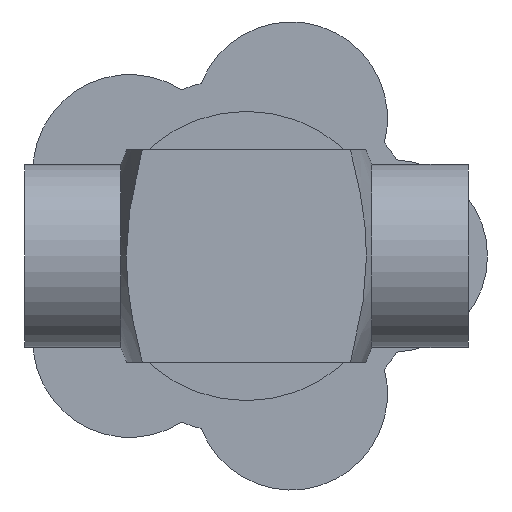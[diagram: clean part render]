
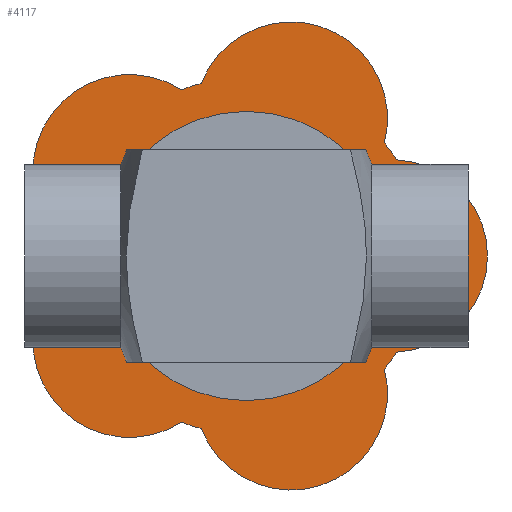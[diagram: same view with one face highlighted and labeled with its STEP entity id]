
A CAD part, front view. The second image highlights one B-rep face of the part: STEP entity #4117.
In plain terms, the highlighted planar face has unit normal (0, -1, 0).
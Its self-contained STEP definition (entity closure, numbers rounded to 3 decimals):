
#136=CIRCLE('',#4336,10.);
#138=CIRCLE('',#4339,10.);
#140=CIRCLE('',#4342,10.);
#142=CIRCLE('',#4345,10.);
#145=CIRCLE('',#4349,18.5);
#147=CIRCLE('',#4352,18.5);
#149=CIRCLE('',#4355,18.5);
#150=CIRCLE('',#4357,18.5);
#153=CIRCLE('',#4361,18.5);
#154=CIRCLE('',#4363,10.);
#162=CIRCLE('',#4374,15.);
#163=CIRCLE('',#4375,15.);
#239=FACE_BOUND('',#656,.T.);
#424=FACE_OUTER_BOUND('',#655,.T.);
#655=EDGE_LOOP('',(#3377,#3378,#3379,#3380,#3381,#3382,#3383,#3384,#3385,
#3386));
#656=EDGE_LOOP('',(#3387,#3388));
#1820=VERTEX_POINT('',#6720);
#1821=VERTEX_POINT('',#6721);
#1824=VERTEX_POINT('',#6729);
#1825=VERTEX_POINT('',#6730);
#1828=VERTEX_POINT('',#6738);
#1829=VERTEX_POINT('',#6739);
#1832=VERTEX_POINT('',#6747);
#1833=VERTEX_POINT('',#6748);
#1837=VERTEX_POINT('',#6758);
#1838=VERTEX_POINT('',#6768);
#1846=VERTEX_POINT('',#6795);
#1847=VERTEX_POINT('',#6796);
#2340=EDGE_CURVE('',#1820,#1821,#136,.T.);
#2344=EDGE_CURVE('',#1824,#1825,#138,.T.);
#2348=EDGE_CURVE('',#1828,#1829,#140,.T.);
#2352=EDGE_CURVE('',#1832,#1833,#142,.T.);
#2358=EDGE_CURVE('',#1837,#1832,#145,.T.);
#2360=EDGE_CURVE('',#1833,#1828,#147,.T.);
#2362=EDGE_CURVE('',#1829,#1824,#149,.T.);
#2363=EDGE_CURVE('',#1821,#1838,#150,.T.);
#2367=EDGE_CURVE('',#1825,#1820,#153,.T.);
#2368=EDGE_CURVE('',#1838,#1837,#154,.T.);
#2377=EDGE_CURVE('',#1846,#1847,#162,.T.);
#2378=EDGE_CURVE('',#1847,#1846,#163,.T.);
#3377=ORIENTED_EDGE('',*,*,#2358,.F.);
#3378=ORIENTED_EDGE('',*,*,#2368,.F.);
#3379=ORIENTED_EDGE('',*,*,#2363,.F.);
#3380=ORIENTED_EDGE('',*,*,#2340,.F.);
#3381=ORIENTED_EDGE('',*,*,#2367,.F.);
#3382=ORIENTED_EDGE('',*,*,#2344,.F.);
#3383=ORIENTED_EDGE('',*,*,#2362,.F.);
#3384=ORIENTED_EDGE('',*,*,#2348,.F.);
#3385=ORIENTED_EDGE('',*,*,#2360,.F.);
#3386=ORIENTED_EDGE('',*,*,#2352,.F.);
#3387=ORIENTED_EDGE('',*,*,#2377,.T.);
#3388=ORIENTED_EDGE('',*,*,#2378,.T.);
#3702=PLANE('',#4376);
#4117=ADVANCED_FACE('',(#424,#239),#3702,.T.);
#4336=AXIS2_PLACEMENT_3D('',#6722,#5120,#5121);
#4339=AXIS2_PLACEMENT_3D('',#6731,#5128,#5129);
#4342=AXIS2_PLACEMENT_3D('',#6740,#5136,#5137);
#4345=AXIS2_PLACEMENT_3D('',#6749,#5144,#5145);
#4349=AXIS2_PLACEMENT_3D('',#6760,#5155,#5156);
#4352=AXIS2_PLACEMENT_3D('',#6763,#5161,#5162);
#4355=AXIS2_PLACEMENT_3D('',#6766,#5167,#5168);
#4357=AXIS2_PLACEMENT_3D('',#6769,#5171,#5172);
#4361=AXIS2_PLACEMENT_3D('',#6775,#5180,#5181);
#4363=AXIS2_PLACEMENT_3D('',#6777,#5184,#5185);
#4374=AXIS2_PLACEMENT_3D('',#6797,#5207,#5208);
#4375=AXIS2_PLACEMENT_3D('',#6798,#5209,#5210);
#4376=AXIS2_PLACEMENT_3D('',#6800,#5212,#5213);
#5120=DIRECTION('center_axis',(0.,1.,0.));
#5121=DIRECTION('ref_axis',(-0.932,0.,0.363));
#5128=DIRECTION('center_axis',(0.,1.,0.));
#5129=DIRECTION('ref_axis',(-0.633,0.,-0.774));
#5136=DIRECTION('center_axis',(0.,1.,0.));
#5137=DIRECTION('ref_axis',(0.54,0.,-0.841));
#5144=DIRECTION('center_axis',(0.,1.,0.));
#5145=DIRECTION('ref_axis',(0.967,0.,0.254));
#5155=DIRECTION('center_axis',(0.,1.,0.));
#5156=DIRECTION('ref_axis',(-1.,0.,0.));
#5161=DIRECTION('center_axis',(0.,1.,0.));
#5162=DIRECTION('ref_axis',(-1.,0.,0.));
#5167=DIRECTION('center_axis',(0.,1.,0.));
#5168=DIRECTION('ref_axis',(-1.,0.,0.));
#5171=DIRECTION('center_axis',(0.,1.,0.));
#5172=DIRECTION('ref_axis',(-1.,0.,0.));
#5180=DIRECTION('center_axis',(0.,1.,0.));
#5181=DIRECTION('ref_axis',(-1.,0.,0.));
#5184=DIRECTION('center_axis',(0.,1.,0.));
#5185=DIRECTION('ref_axis',(0.057,0.,0.998));
#5207=DIRECTION('center_axis',(0.,1.,0.));
#5208=DIRECTION('ref_axis',(-1.,0.,0.));
#5209=DIRECTION('center_axis',(0.,1.,0.));
#5210=DIRECTION('ref_axis',(-1.,0.,0.));
#5212=DIRECTION('center_axis',(0.,-1.,0.));
#5213=DIRECTION('ref_axis',(0.,0.,-1.));
#6720=CARTESIAN_POINT('',(-21.497,52.176,17.898));
#6721=CARTESIAN_POINT('',(-2.508,52.176,11.728));
#6722=CARTESIAN_POINT('Origin',(-12.18,52.176,14.266));
#6729=CARTESIAN_POINT('',(-35.284,52.176,1.078));
#6730=CARTESIAN_POINT('',(-23.548,52.176,17.232));
#6731=CARTESIAN_POINT('Origin',(-28.951,52.176,8.817));
#6738=CARTESIAN_POINT('',(-23.548,52.176,-17.232));
#6739=CARTESIAN_POINT('',(-35.284,52.176,-1.078));
#6740=CARTESIAN_POINT('Origin',(-28.951,52.176,-8.817));
#6747=CARTESIAN_POINT('',(-2.508,52.176,-11.728));
#6748=CARTESIAN_POINT('',(-21.497,52.176,-17.898));
#6749=CARTESIAN_POINT('Origin',(-12.18,52.176,-14.266));
#6758=CARTESIAN_POINT('',(-1.24,52.176,-9.983));
#6760=CARTESIAN_POINT('Origin',(-16.815,52.176,0.));
#6763=CARTESIAN_POINT('Origin',(-16.815,52.176,0.));
#6766=CARTESIAN_POINT('Origin',(-16.815,52.176,0.));
#6768=CARTESIAN_POINT('',(-1.24,52.176,9.983));
#6769=CARTESIAN_POINT('Origin',(-16.815,52.176,0.));
#6775=CARTESIAN_POINT('Origin',(-16.815,52.176,0.));
#6777=CARTESIAN_POINT('Origin',(-1.815,52.176,0.));
#6795=CARTESIAN_POINT('',(-31.815,52.176,0.));
#6796=CARTESIAN_POINT('',(-1.815,52.176,0.));
#6797=CARTESIAN_POINT('Origin',(-16.815,52.176,0.));
#6798=CARTESIAN_POINT('Origin',(-16.815,52.176,0.));
#6800=CARTESIAN_POINT('Origin',(-33.565,52.176,0.));
